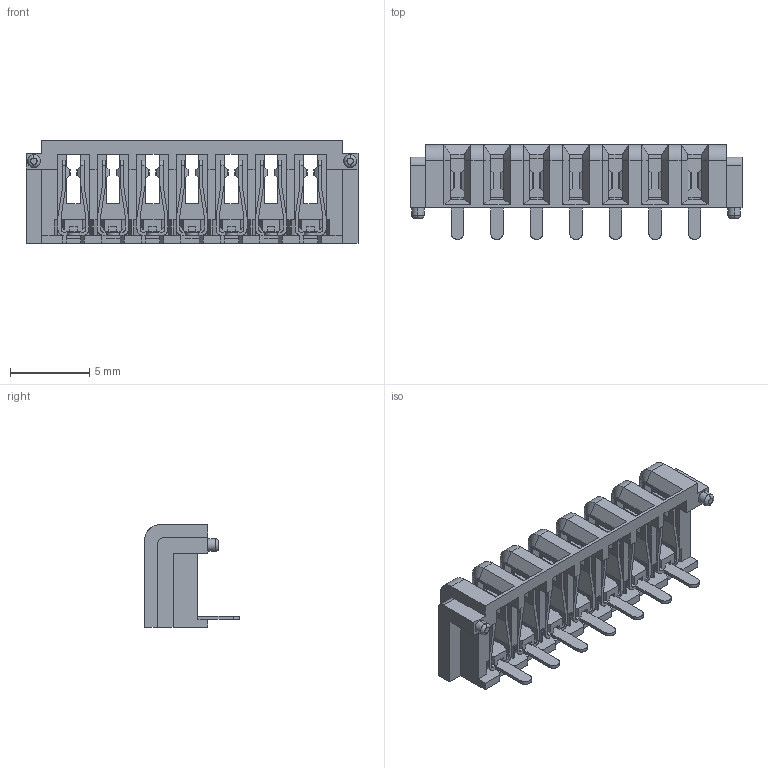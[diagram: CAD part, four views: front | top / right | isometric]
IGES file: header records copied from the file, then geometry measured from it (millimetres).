
Start section: SolidWorks IGES file using analytic representation for surfaces
Global section: file name: C:\Users\hsuan\Desktop\°õ¦æ§@·~\RFQ³æ\2026¦~\6¤ë\RB126060092\TSB0-04171-00XXA[3D].IGS; native system: SolidWorks 2022; preprocessor: SolidWorks 2022; author: hsuan; date: 260618.165659; units: millimetre
Bounding box: 21 x 6 x 6.5 mm (x, y, z)
Surface area: 1170.4 mm2 (no closed solid volume)
Topology: 0 solids, 0 shells, 1090 faces, 7346 edges, 7346 vertices
Faces by surface type: bspline 1090
